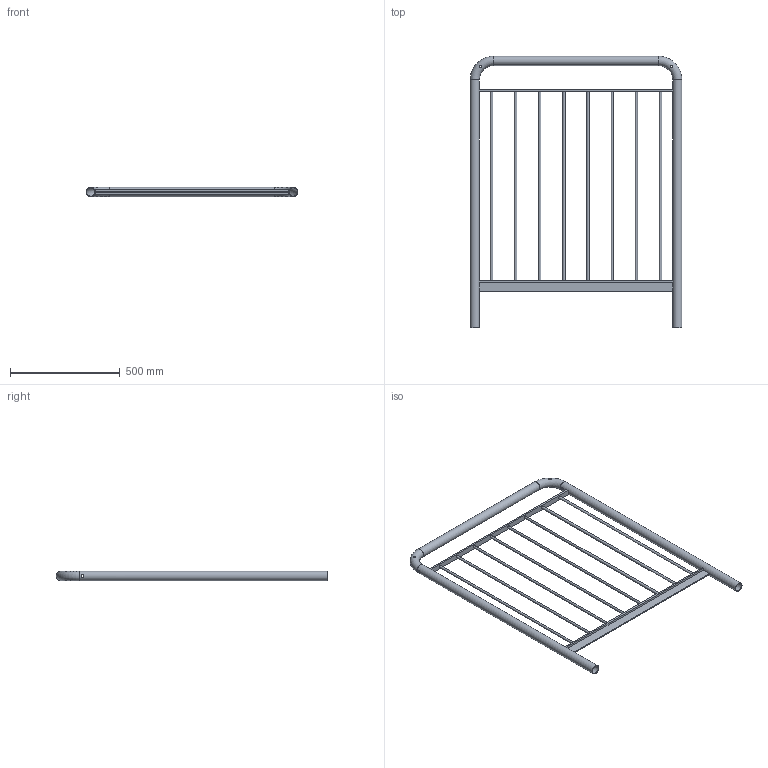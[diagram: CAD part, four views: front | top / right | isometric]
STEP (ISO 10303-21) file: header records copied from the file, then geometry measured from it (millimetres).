
FILE_DESCRIPTION((''),'2;1');
FILE_NAME('S:\Användarkataloger\AndreasA\Mina Inventor filer\Räcken\STEP\modul_bos_1000-1216.stp','2010-09-07T13:28:25',('AndreasA'),(''),'Autodesk Inventor 2011','Autodesk Inventor 2011','');
FILE_SCHEMA(('AUTOMOTIVE_DESIGN { 1 0 10303 214 1 1 1 1 }'));
Length unit declared in the file: millimetre
Products named in the file (4): modul_bos_1000-1216; handledare_modul_1000-1216; galleri_modul_1000; pls_modul_bos_1000
Assembly tree (3 placements, depth 2):
  modul_bos_1000-1216
    handledare_modul_1000-1216
    galleri_modul_1000
    pls_modul_bos_1000
Bounding box: 965.4 x 1237.2 x 42.4 mm (x, y, z)
Volume: 2016615.9 mm3; surface area: 1266465.6 mm2
Topology: 3 solids, 3 shells, 46 faces, 118 edges, 76 vertices
Faces by surface type: cylinder 22, plane 20, torus 4
Full cylindrical faces by diameter (mm): 10 x4, 11 x12, 38.4 x3, 42.4 x3
Entity records: 2031 total; most frequent: CARTESIAN_POINT 917, DIRECTION 198, ORIENTED_EDGE 160, EDGE_LOOP 106, AXIS2_PLACEMENT_3D 81, EDGE_CURVE 80, VERTEX_POINT 68, FACE_BOUND 60
